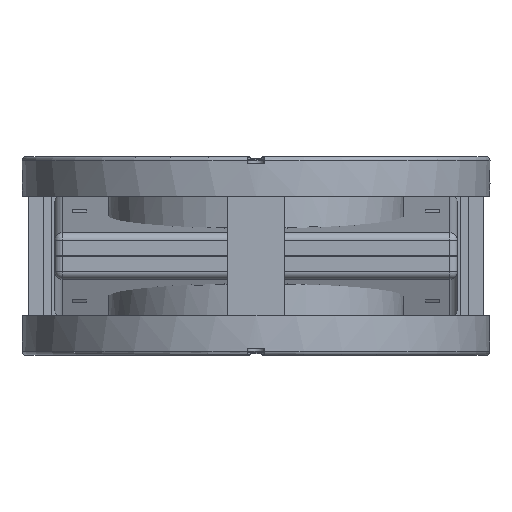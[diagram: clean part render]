
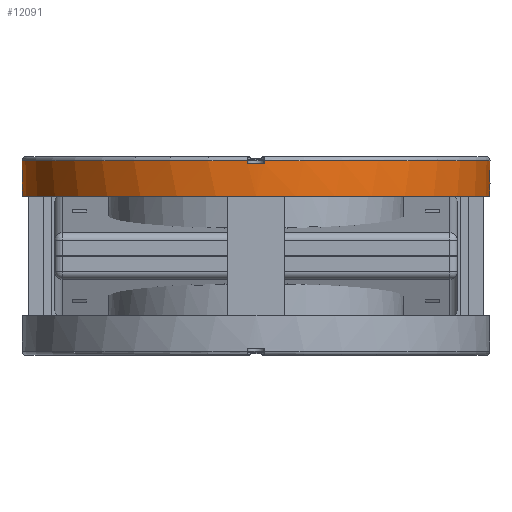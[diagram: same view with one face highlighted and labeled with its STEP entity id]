
A CAD part, front view. The second image highlights one B-rep face of the part: STEP entity #12091.
In plain terms, the highlighted cylindrical face has radius 82.4 mm (diameter 164.8 mm), a full revolution.
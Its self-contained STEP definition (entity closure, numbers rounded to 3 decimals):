
#8796=CIRCLE('',#40447,82.4);
#8797=CIRCLE('',#40450,82.4);
#8798=CIRCLE('',#40451,82.4);
#8799=CIRCLE('',#40452,82.4);
#8800=CIRCLE('',#40453,82.4);
#8801=CIRCLE('',#40454,82.4);
#8802=CIRCLE('',#40457,82.4);
#12091=ADVANCED_FACE('',(#14138,#14139,#14140,#14141),#13613,.T.);
#13613=CYLINDRICAL_SURFACE('',#40458,82.4);
#14138=FACE_BOUND('',#15681,.T.);
#14139=FACE_BOUND('',#15682,.T.);
#14140=FACE_BOUND('',#15683,.T.);
#14141=FACE_BOUND('',#15684,.T.);
#15681=EDGE_LOOP('',(#20160,#20161,#20162));
#15682=EDGE_LOOP('',(#20163,#20164));
#15683=EDGE_LOOP('',(#20165,#20166,#20167,#20168,#20169,#20170,#20171,#20172));
#15684=EDGE_LOOP('',(#20173,#20174,#20175));
#17619=ELLIPSE('',#40446,164.8,82.4);
#17620=ELLIPSE('',#40448,164.8,82.4);
#17621=ELLIPSE('',#40449,82.715,82.4);
#17622=ELLIPSE('',#40455,164.8,82.4);
#17623=ELLIPSE('',#40456,164.8,82.4);
#20160=ORIENTED_EDGE('',*,*,#31217,.F.);
#20161=ORIENTED_EDGE('',*,*,#31218,.F.);
#20162=ORIENTED_EDGE('',*,*,#31219,.F.);
#20163=ORIENTED_EDGE('',*,*,#31220,.F.);
#20164=ORIENTED_EDGE('',*,*,#31221,.F.);
#20165=ORIENTED_EDGE('',*,*,#31222,.F.);
#20166=ORIENTED_EDGE('',*,*,#31223,.T.);
#20167=ORIENTED_EDGE('',*,*,#31224,.F.);
#20168=ORIENTED_EDGE('',*,*,#31225,.T.);
#20169=ORIENTED_EDGE('',*,*,#31226,.F.);
#20170=ORIENTED_EDGE('',*,*,#31227,.T.);
#20171=ORIENTED_EDGE('',*,*,#31228,.F.);
#20172=ORIENTED_EDGE('',*,*,#31229,.T.);
#20173=ORIENTED_EDGE('',*,*,#31230,.F.);
#20174=ORIENTED_EDGE('',*,*,#31231,.F.);
#20175=ORIENTED_EDGE('',*,*,#31232,.F.);
#27605=VERTEX_POINT('',#54520);
#27606=VERTEX_POINT('',#54521);
#27607=VERTEX_POINT('',#54523);
#27608=VERTEX_POINT('',#54526);
#27609=VERTEX_POINT('',#54527);
#27610=VERTEX_POINT('',#54530);
#27611=VERTEX_POINT('',#54531);
#27612=VERTEX_POINT('',#54533);
#27613=VERTEX_POINT('',#54535);
#27614=VERTEX_POINT('',#54537);
#27615=VERTEX_POINT('',#54539);
#27616=VERTEX_POINT('',#54541);
#27617=VERTEX_POINT('',#54543);
#27618=VERTEX_POINT('',#54546);
#27619=VERTEX_POINT('',#54547);
#27620=VERTEX_POINT('',#54549);
#31217=EDGE_CURVE('',#27605,#27606,#17619,.T.);
#31218=EDGE_CURVE('',#27607,#27605,#8796,.T.);
#31219=EDGE_CURVE('',#27606,#27607,#17620,.T.);
#31220=EDGE_CURVE('',#27608,#27609,#17621,.T.);
#31221=EDGE_CURVE('',#27609,#27608,#8797,.T.);
#31222=EDGE_CURVE('',#27610,#27611,#35459,.T.);
#31223=EDGE_CURVE('',#27610,#27612,#8798,.T.);
#31224=EDGE_CURVE('',#27613,#27612,#35460,.T.);
#31225=EDGE_CURVE('',#27613,#27614,#8799,.T.);
#31226=EDGE_CURVE('',#27615,#27614,#35461,.T.);
#31227=EDGE_CURVE('',#27615,#27616,#8800,.T.);
#31228=EDGE_CURVE('',#27617,#27616,#35462,.T.);
#31229=EDGE_CURVE('',#27617,#27611,#8801,.T.);
#31230=EDGE_CURVE('',#27618,#27619,#17622,.T.);
#31231=EDGE_CURVE('',#27620,#27618,#17623,.T.);
#31232=EDGE_CURVE('',#27619,#27620,#8802,.T.);
#35459=LINE('',#54529,#38002);
#35460=LINE('',#54534,#38003);
#35461=LINE('',#54538,#38004);
#35462=LINE('',#54542,#38005);
#38002=VECTOR('',#45386,1.);
#38003=VECTOR('',#45389,1.);
#38004=VECTOR('',#45392,1.);
#38005=VECTOR('',#45395,1.);
#40446=AXIS2_PLACEMENT_3D('',#54519,#45376,#45377);
#40447=AXIS2_PLACEMENT_3D('',#54522,#45378,#45379);
#40448=AXIS2_PLACEMENT_3D('',#54524,#45380,#45381);
#40449=AXIS2_PLACEMENT_3D('',#54525,#45382,#45383);
#40450=AXIS2_PLACEMENT_3D('',#54528,#45384,#45385);
#40451=AXIS2_PLACEMENT_3D('',#54532,#45387,#45388);
#40452=AXIS2_PLACEMENT_3D('',#54536,#45390,#45391);
#40453=AXIS2_PLACEMENT_3D('',#54540,#45393,#45394);
#40454=AXIS2_PLACEMENT_3D('',#54544,#45396,#45397);
#40455=AXIS2_PLACEMENT_3D('',#54545,#45398,#45399);
#40456=AXIS2_PLACEMENT_3D('',#54548,#45400,#45401);
#40457=AXIS2_PLACEMENT_3D('',#54550,#45402,#45403);
#40458=AXIS2_PLACEMENT_3D('',#54551,#45404,#45405);
#45376=DIRECTION('',(-0.5,0.866,0.));
#45377=DIRECTION('',(0.866,0.5,0.));
#45378=DIRECTION('',(1.,0.,0.));
#45379=DIRECTION('',(0.,0.,-1.));
#45380=DIRECTION('',(-0.5,-0.866,0.));
#45381=DIRECTION('',(0.866,-0.5,0.));
#45382=DIRECTION('',(0.996,0.087,0.));
#45383=DIRECTION('',(0.087,-0.996,0.));
#45384=DIRECTION('',(1.,0.,0.));
#45385=DIRECTION('',(0.,1.,0.));
#45386=DIRECTION('',(1.,0.,0.));
#45387=DIRECTION('',(1.,0.,0.));
#45388=DIRECTION('',(0.,1.,0.));
#45389=DIRECTION('',(-1.,0.,0.));
#45390=DIRECTION('',(1.,0.,0.));
#45391=DIRECTION('',(0.,1.,0.));
#45392=DIRECTION('',(1.,0.,0.));
#45393=DIRECTION('',(1.,0.,0.));
#45394=DIRECTION('',(0.,1.,0.));
#45395=DIRECTION('',(-1.,0.,0.));
#45396=DIRECTION('',(1.,0.,0.));
#45397=DIRECTION('',(0.,1.,0.));
#45398=DIRECTION('',(-0.5,0.866,0.));
#45399=DIRECTION('',(0.866,0.5,0.));
#45400=DIRECTION('',(-0.5,-0.866,0.));
#45401=DIRECTION('',(0.866,-0.5,0.));
#45402=DIRECTION('',(1.,0.,0.));
#45403=DIRECTION('',(0.,0.,-1.));
#45404=DIRECTION('',(1.,0.,0.));
#45405=DIRECTION('',(0.,1.,0.));
#54519=CARTESIAN_POINT('',(-25.5,0.,0.));
#54520=CARTESIAN_POINT('',(-30.,-2.598,82.359));
#54521=CARTESIAN_POINT('',(-25.5,0.,82.4));
#54522=CARTESIAN_POINT('',(-30.,0.,0.));
#54523=CARTESIAN_POINT('',(-30.,2.598,82.359));
#54524=CARTESIAN_POINT('',(-25.5,0.,0.));
#54525=CARTESIAN_POINT('',(-14.31,0.,0.));
#54526=CARTESIAN_POINT('',(-21.,76.47,-30.692));
#54527=CARTESIAN_POINT('',(-21.,76.47,30.692));
#54528=CARTESIAN_POINT('',(-21.,0.,0.));
#54529=CARTESIAN_POINT('',(-13.6,82.345,3.));
#54530=CARTESIAN_POINT('',(-33.5,82.345,3.));
#54531=CARTESIAN_POINT('',(-32.5,82.345,3.));
#54532=CARTESIAN_POINT('',(-33.5,0.,0.));
#54533=CARTESIAN_POINT('',(-33.5,-82.345,3.));
#54534=CARTESIAN_POINT('',(-13.6,-82.345,3.));
#54535=CARTESIAN_POINT('',(-32.5,-82.345,3.));
#54536=CARTESIAN_POINT('',(-32.5,0.,0.));
#54537=CARTESIAN_POINT('',(-32.5,-82.345,-3.));
#54538=CARTESIAN_POINT('',(-13.6,-82.345,-3.));
#54539=CARTESIAN_POINT('',(-33.5,-82.345,-3.));
#54540=CARTESIAN_POINT('',(-33.5,0.,0.));
#54541=CARTESIAN_POINT('',(-33.5,82.345,-3.));
#54542=CARTESIAN_POINT('',(-13.6,82.345,-3.));
#54543=CARTESIAN_POINT('',(-32.5,82.345,-3.));
#54544=CARTESIAN_POINT('',(-32.5,0.,0.));
#54545=CARTESIAN_POINT('',(-25.5,0.,0.));
#54546=CARTESIAN_POINT('',(-25.5,0.,-82.4));
#54547=CARTESIAN_POINT('',(-30.,-2.598,-82.359));
#54548=CARTESIAN_POINT('',(-25.5,0.,0.));
#54549=CARTESIAN_POINT('',(-30.,2.598,-82.359));
#54550=CARTESIAN_POINT('',(-30.,0.,0.));
#54551=CARTESIAN_POINT('',(-13.6,0.,0.));
